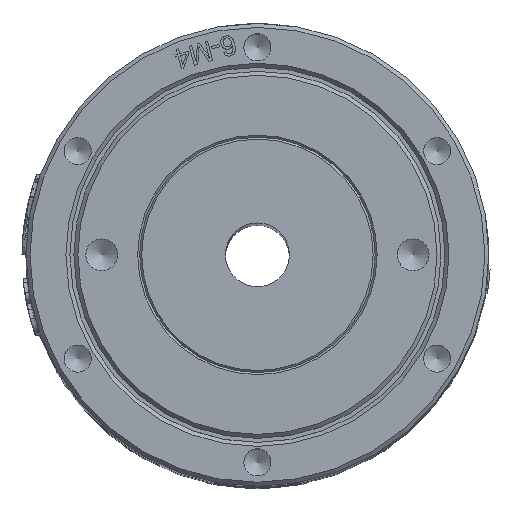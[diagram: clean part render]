
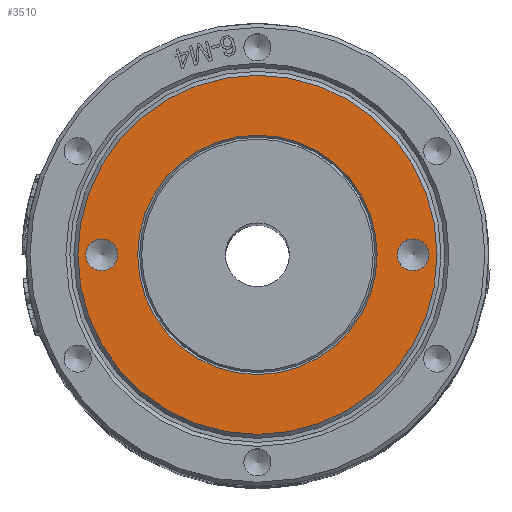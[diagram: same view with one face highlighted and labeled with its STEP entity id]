
A CAD part, top view. The second image highlights one B-rep face of the part: STEP entity #3510.
In plain terms, the highlighted planar face has unit normal (0, 0, 1).
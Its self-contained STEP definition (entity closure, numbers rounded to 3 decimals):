
#387=FACE_BOUND('',#7869,.T.);
#388=FACE_BOUND('',#7870,.T.);
#389=FACE_BOUND('',#7871,.T.);
#390=FACE_BOUND('',#7872,.T.);
#1206=CIRCLE('',#25188,2.);
#1207=CIRCLE('',#25189,2.);
#1208=CIRCLE('',#25190,22.5);
#1209=CIRCLE('',#25191,15.);
#1961=PLANE('',#25192);
#3510=ADVANCED_FACE('',(#387,#388,#389,#390),#1961,.T.);
#7869=EDGE_LOOP('',(#11966));
#7870=EDGE_LOOP('',(#11967));
#7871=EDGE_LOOP('',(#11968));
#7872=EDGE_LOOP('',(#11969));
#11966=ORIENTED_EDGE('',*,*,#20514,.T.);
#11967=ORIENTED_EDGE('',*,*,#20515,.T.);
#11968=ORIENTED_EDGE('',*,*,#20516,.T.);
#11969=ORIENTED_EDGE('',*,*,#20517,.T.);
#17364=VERTEX_POINT('',#44467);
#17365=VERTEX_POINT('',#44469);
#17366=VERTEX_POINT('',#44471);
#17367=VERTEX_POINT('',#44473);
#20514=EDGE_CURVE('',#17364,#17364,#1206,.T.);
#20515=EDGE_CURVE('',#17365,#17365,#1207,.T.);
#20516=EDGE_CURVE('',#17366,#17366,#1208,.T.);
#20517=EDGE_CURVE('',#17367,#17367,#1209,.T.);
#25188=AXIS2_PLACEMENT_3D('',#44466,#27804,#27805);
#25189=AXIS2_PLACEMENT_3D('',#44468,#27806,#27807);
#25190=AXIS2_PLACEMENT_3D('',#44470,#27808,#27809);
#25191=AXIS2_PLACEMENT_3D('',#44472,#27810,#27811);
#25192=AXIS2_PLACEMENT_3D('',#44474,#27812,#27813);
#27804=DIRECTION('',(0.,0.,-1.));
#27805=DIRECTION('',(-1.,0.,0.));
#27806=DIRECTION('',(0.,0.,-1.));
#27807=DIRECTION('',(1.,0.,0.));
#27808=DIRECTION('',(0.,0.,1.));
#27809=DIRECTION('',(1.,0.,0.));
#27810=DIRECTION('',(0.,0.,-1.));
#27811=DIRECTION('',(1.,0.,0.));
#27812=DIRECTION('',(0.,0.,1.));
#27813=DIRECTION('',(-1.,0.,0.));
#44466=CARTESIAN_POINT('',(19.5,0.,179.5));
#44467=CARTESIAN_POINT('',(17.5,0.,179.5));
#44468=CARTESIAN_POINT('',(-19.5,0.,179.5));
#44469=CARTESIAN_POINT('',(-17.5,0.,179.5));
#44470=CARTESIAN_POINT('',(0.,0.,179.5));
#44471=CARTESIAN_POINT('',(22.5,0.,179.5));
#44472=CARTESIAN_POINT('',(0.,0.,179.5));
#44473=CARTESIAN_POINT('',(15.,0.,179.5));
#44474=CARTESIAN_POINT('',(0.,0.,179.5));
